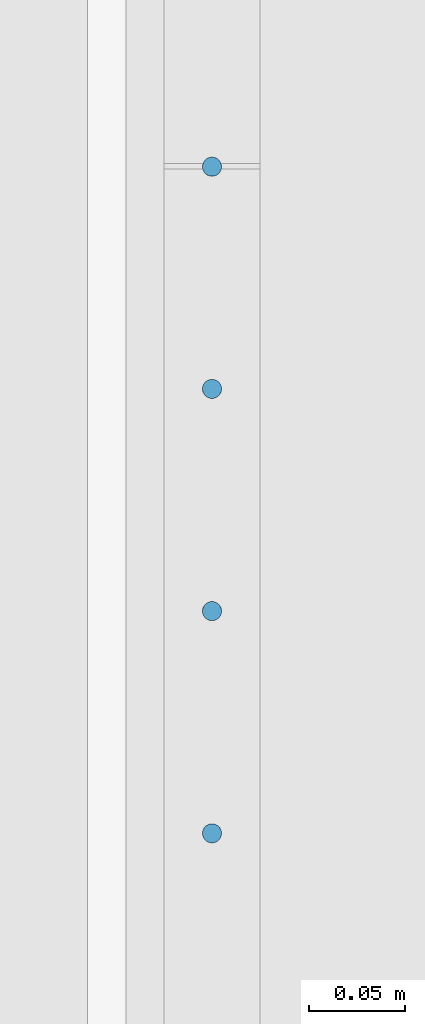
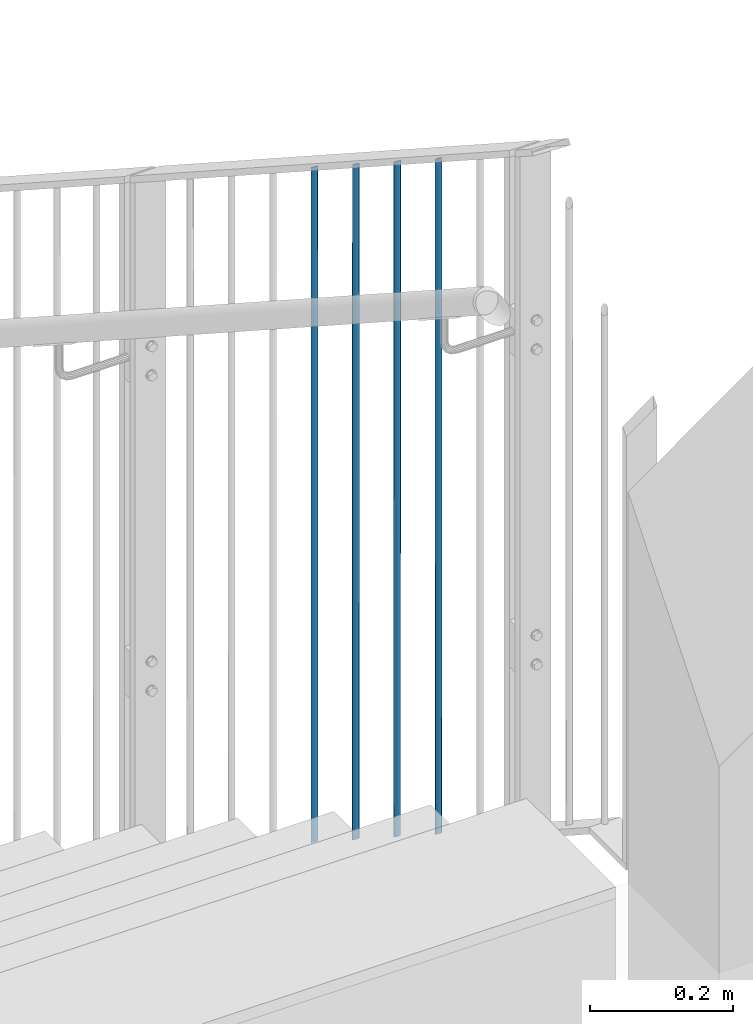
# One storey, part 32 of 296: 4 columns.
"""IFC2X3 building model written with IfcOpenShell, lengths in millimetres."""

from ifc_helpers import new_model, entity, si_unit, converted_unit, frame, origin, origin_with_axes, origin_2d, place, context, project, spatial, circle, extrude, clip, halfspace, material, element, save


model = new_model("IFC2X3")

# Units and contexts
model_context = context("Model", 3, precision=1e-09, world=origin_with_axes())
ifc_project = project(units=[si_unit("LENGTHUNIT", "METRE", prefix="MILLI"), si_unit("AREAUNIT", "SQUARE_METRE"), si_unit("VOLUMEUNIT", "CUBIC_METRE"), converted_unit("PLANEANGLEUNIT", "DEGREE", entity("IfcPlaneAngleMeasure", 0.01745329), si_unit("PLANEANGLEUNIT", "RADIAN"), dimensions=[0, 0, 0, 0, 0, 0, 0])], contexts=[model_context])

# Site, building, storey
site_placement = place(None, origin_with_axes())
site = spatial("IfcSite", under=ifc_project, at=site_placement, Name="TZD-S?d | Treppenhausgel?nder", CompositionType="ELEMENT")
building_placement = place(site_placement, origin_with_axes())
building = spatial("IfcBuilding", under=site, at=building_placement, Name="Struktur 1", CompositionType="ELEMENT")
storey_placement = place(building_placement, origin_with_axes())
storey = spatial("IfcBuildingStorey", under=building, at=storey_placement, Name="Default Storey", CompositionType="ELEMENT", Elevation=0.0)

# Columns
ifc_material = material(Name="S235JR")
column_1_placement = place(None, frame((5894.999, -3165.2777778, 9484.55209407), z_axis=(0.0, 0.0, -1.0), x_axis=(0.0, 1.0, 0.0)))
element("IfcColumn", 1, at=column_1_placement, inside=storey, material=ifc_material, Name="-", ObjectType="-", context=model_context, shape_type="Clipping", body=[
    clip(clip(extrude(circle(Radius=5.0, at=origin_2d()), origin(), (0.0, 0.0, -1.0), 1184.934996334), halfspace(frame((7091.528461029, -5894.999, 3422.361775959), z_axis=(-0.543608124, 0.0, 0.839339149), x_axis=(0.0, 1.0, 0.0)), True)), halfspace(frame((6564.001245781, -5894.999, 4236.871758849), z_axis=(0.543608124, 0.0, -0.839339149), x_axis=(0.0, -1.0, 0.0)), True)),
])
column_2_placement = place(None, frame((5894.999, -3049.1666667, 9409.351332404), z_axis=(0.0, 0.0, -1.0), x_axis=(0.0, 1.0, 0.0)))
element("IfcColumn", 2, at=column_2_placement, inside=storey, material=ifc_material, Name="-", ObjectType="-", context=model_context, shape_type="Clipping", body=[
    clip(clip(extrude(circle(Radius=5.0, at=origin_2d()), origin(), (0.0, 0.0, -1.0), 1184.934996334), halfspace(frame((6447.890134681, -5894.999, 4161.670997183), z_axis=(0.543608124, 0.0, -0.839339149), x_axis=(0.0, -1.0, 0.0)), True)), halfspace(frame((6975.417349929, -5894.999, 3347.161014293), z_axis=(-0.543608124, 0.0, 0.839339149), x_axis=(0.0, 1.0, 0.0)), True)),
])
column_3_placement = place(None, frame((5894.999, -2933.0555556, 9334.150570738), z_axis=(0.0, 0.0, -1.0), x_axis=(0.0, 1.0, 0.0)))
element("IfcColumn", 3, at=column_3_placement, inside=storey, material=ifc_material, Name="-", ObjectType="-", context=model_context, shape_type="Clipping", body=[
    clip(clip(extrude(circle(Radius=5.0, at=origin_2d()), origin(), (0.0, 0.0, -1.0), 1184.934996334), halfspace(frame((6859.306238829, -5894.999, 3271.960252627), z_axis=(-0.543608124, 0.0, 0.839339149), x_axis=(0.0, 1.0, 0.0)), True)), halfspace(frame((6331.779023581, -5894.999, 4086.470235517), z_axis=(0.543608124, 0.0, -0.839339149), x_axis=(0.0, -1.0, 0.0)), True)),
])
column_4_placement = place(None, frame((5894.999, -2816.9444445, 9258.949809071), z_axis=(0.0, 0.0, -1.0), x_axis=(0.0, 1.0, 0.0)))
element("IfcColumn", 4, at=column_4_placement, inside=storey, material=ifc_material, Name="-", ObjectType="-", context=model_context, shape_type="Clipping", body=[
    clip(clip(extrude(circle(Radius=5.0, at=origin_2d()), origin(), (0.0, 0.0, -1.0), 1184.934996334), halfspace(frame((6743.195127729, -5894.999, 3196.759490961), z_axis=(-0.543608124, 0.0, 0.839339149), x_axis=(0.0, 1.0, 0.0)), True)), halfspace(frame((6215.667912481, -5894.999, 4011.269473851), z_axis=(0.543608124, 0.0, -0.839339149), x_axis=(0.0, -1.0, 0.0)), True)),
])

save(model, "model.ifc")
